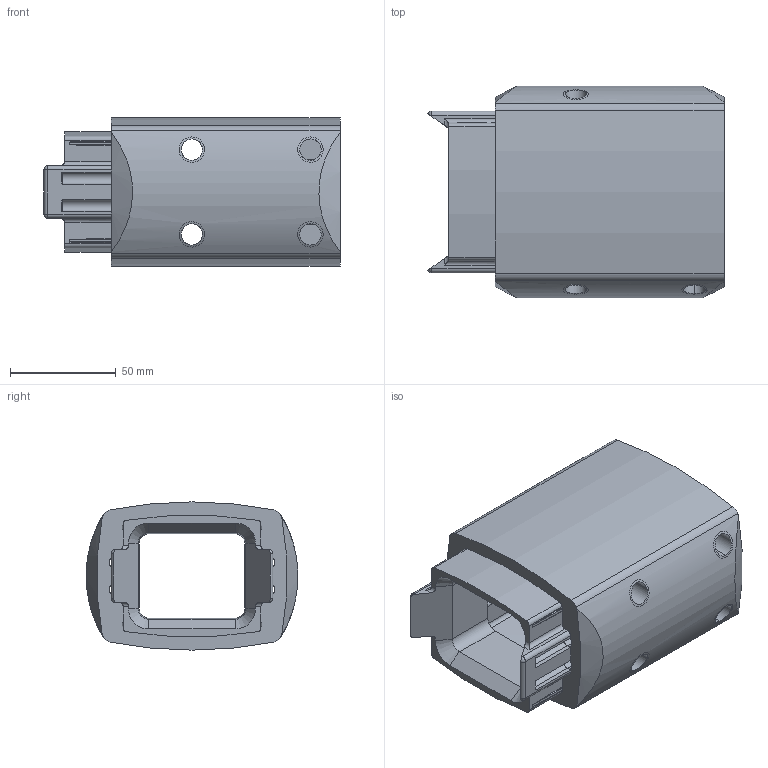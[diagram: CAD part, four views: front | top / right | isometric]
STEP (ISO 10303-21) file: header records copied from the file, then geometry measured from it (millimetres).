
FILE_DESCRIPTION((''),'2;1');
FILE_NAME('1015300208_ASM','2023-05-15T11:19:25',('silke.otte'),(''),'CREO PARAMETRIC BY PTC INC, 2022124','CREO PARAMETRIC BY PTC INC, 2022124','');
FILE_SCHEMA(('AUTOMOTIVE_DESIGN { 1 0 10303 214 1 1 1 1 }'));
Length unit declared in the file: millimetre
Products named in the file (2): 9620426000; 1015300208_ASM
Assembly tree (1 placements, depth 2):
  1015300208_ASM
    9620426000
Bounding box: 139.87 x 99.98 x 70 mm (x, y, z)
Volume: 268793.1 mm3; surface area: 82858.3 mm2
Topology: 1 solids, 7 shells, 249 faces, 706 edges, 472 vertices
Faces by surface type: cylinder 120, plane 103, cone 10, bspline 8, torus 4, sphere 4
Entity records: 13085 total; most frequent: CARTESIAN_POINT 3368, ORIENTED_EDGE 1372, DIRECTION 1313, PRESENTATION_STYLE_ASSIGNMENT 739, STYLED_ITEM 739, CURVE_STYLE 732, EDGE_CURVE 698, AXIS2_PLACEMENT_3D 459
